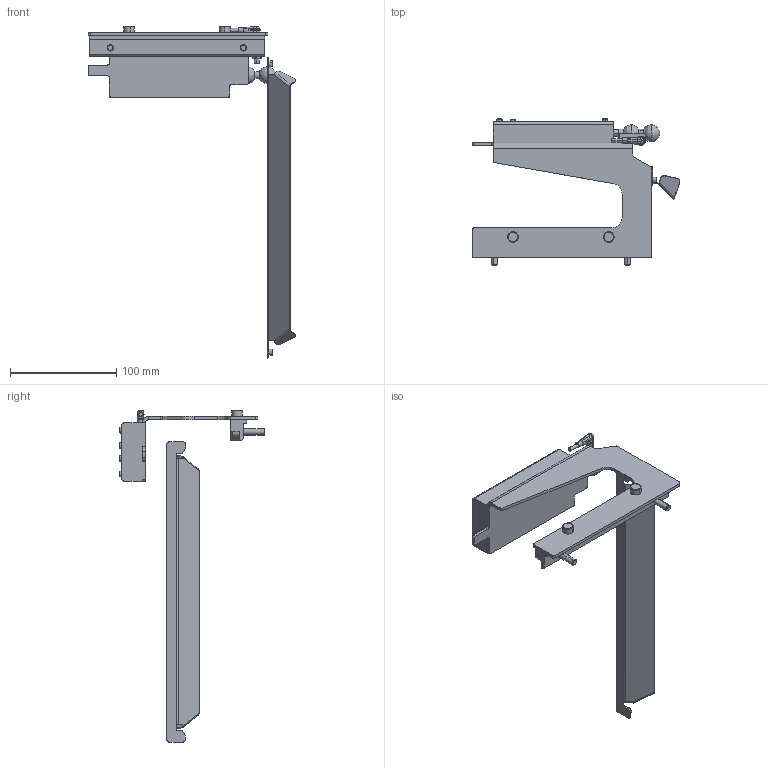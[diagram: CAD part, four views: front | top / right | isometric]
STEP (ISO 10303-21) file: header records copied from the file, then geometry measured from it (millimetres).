
FILE_DESCRIPTION (( 'STEP AP214' ), '1' );
FILE_NAME ('Asyril_RIGHT PURGE ACTUATOR KIT 240_000.104.682_(option).STEP', '2021-07-28T12:42:26', ( '' ), ( '' ), 'SwSTEP 2.0', 'SolidWorks 2017', '' );
FILE_SCHEMA (( 'AUTOMOTIVE_DESIGN' ));
Length unit declared in the file: millimetre
Products named in the file (3): Asyril_RIGHT PURGE ACTUATOR KIT 240_000.104.682_(option); Asyril_RIGHT PURGE ACTUATOR KIT 240_000.104.682_(OPEN)-1; Asyril_RIGHT PURGE ACTUATOR KIT 240_000.104.682_(CLOSED)-1
Assembly tree (2 placements, depth 2):
  Asyril_RIGHT PURGE ACTUATOR KIT 240_000.104.682_(option)
    Asyril_RIGHT PURGE ACTUATOR KIT 240_000.104.682_(CLOSED)-1
    Asyril_RIGHT PURGE ACTUATOR KIT 240_000.104.682_(OPEN)-1
Bounding box: 195.38 x 137.2 x 312 mm (x, y, z)
Volume: 455915.4 mm3; surface area: 154728.7 mm2
Topology: 4 solids, 12 shells, 794 faces, 1904 edges, 1176 vertices
Faces by surface type: plane 318, cylinder 294, cone 72, torus 70, bspline 32, sphere 8
Entity records: 29710 total; most frequent: CARTESIAN_POINT 5731, DIRECTION 4074, ORIENTED_EDGE 3776, EDGE_CURVE 1888, AXIS2_PLACEMENT_3D 1579, VERTEX_POINT 1176, LINE 916, VECTOR 916
